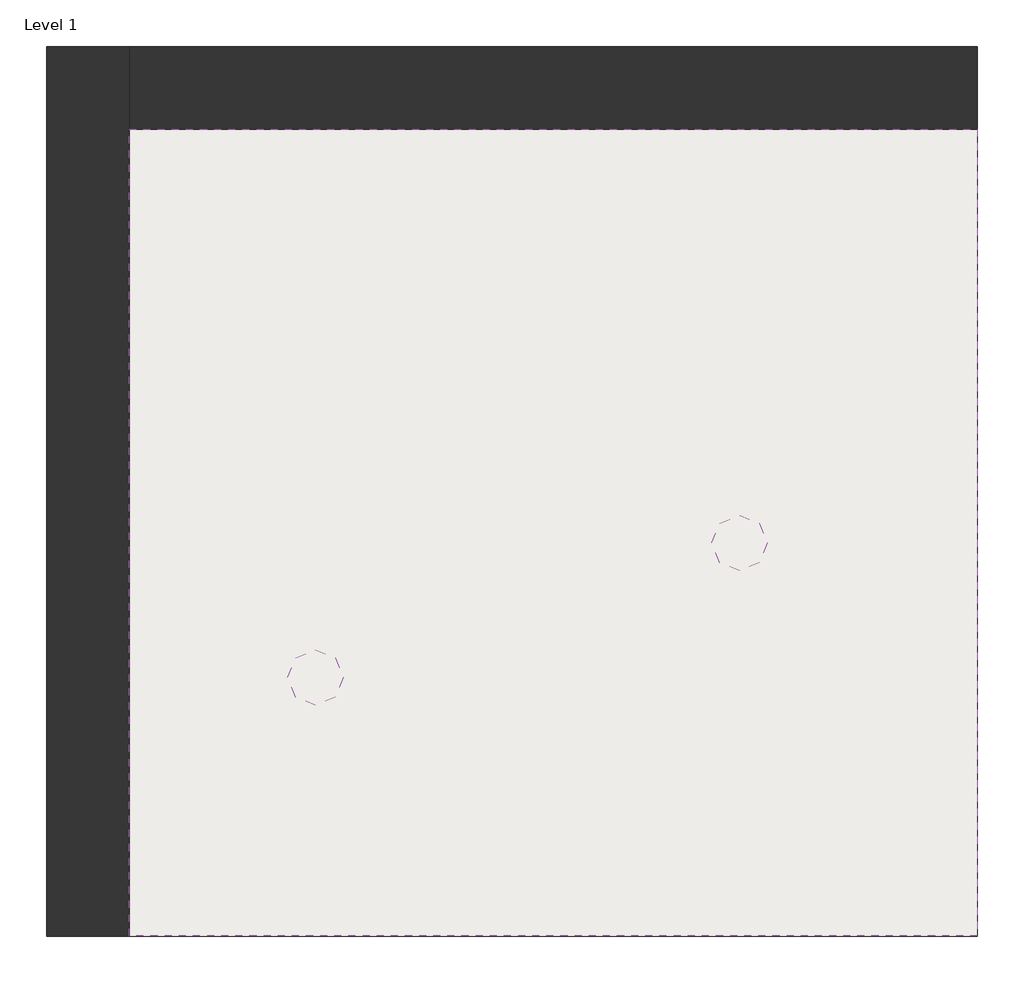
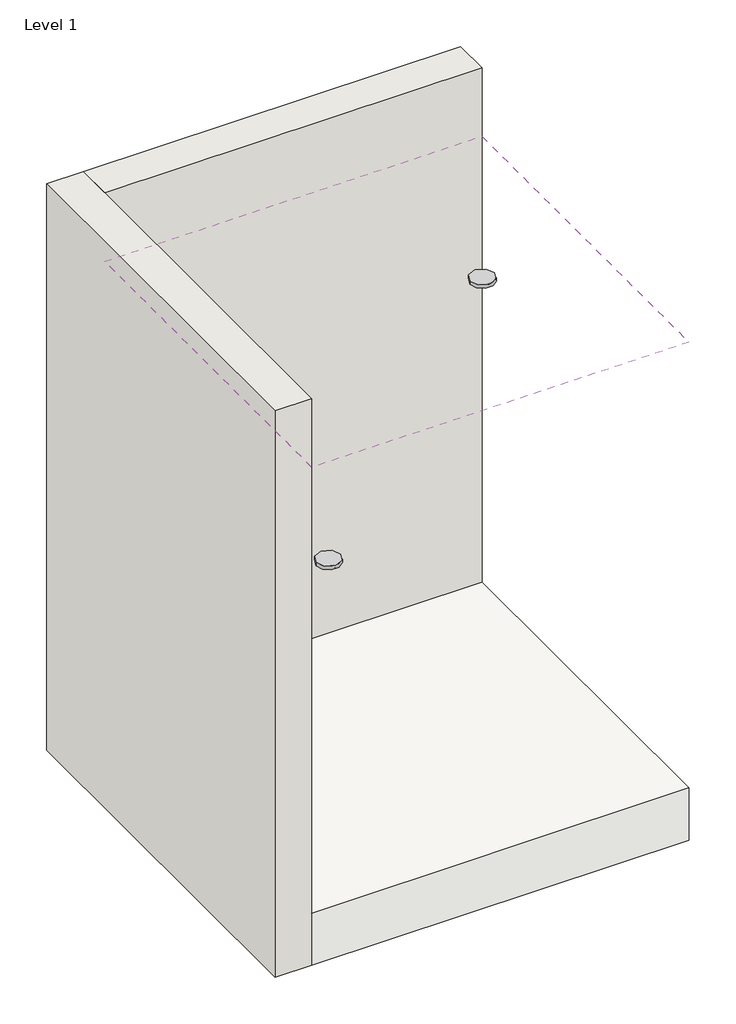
# One storey: 2 light fixtures, 2 walls, 1 covering, 1 slab.
"""IFC4 building model written with IfcOpenShell, lengths in millimetres."""

from ifc_helpers import new_model, si_unit, frame, origin, place, context, project, spatial, polyline, outline, extrude, faceted_brep, transform, mapped, element, save
from components import light_fixture_173faddb

model = new_model("IFC4")

# Units and contexts
model_context = context("Model", 3, world=origin())
ifc_project = project(units=[si_unit("LENGTHUNIT", "METRE", prefix="MILLI")], contexts=[model_context])

# Site, building, storey
site = spatial("IfcSite", under=ifc_project)
building = spatial("IfcBuilding", under=site)
storey = spatial("IfcBuildingStorey", under=building, Name="Level 1", Elevation=0.0)

# Covering
placement = place(None, origin())
element("IfcCovering", 1, ObjectType="Ceiling 2", at=placement, inside=storey, context=model_context, shape_type="SweptSolid", body=[
    extrude(outline(polyline([(4291.0676417, 3741.7404022), (4291.0676417, 1760.5404022), (2208.2676417, 1760.5404022), (2208.2676417, 3741.7404022), (4291.0676417, 3741.7404022)])), frame((0.0, 0.0, 2600.0), z_axis=(0.0, 0.0, 1.0), x_axis=(1.0, 0.0, 0.0)), (0.0, 0.0, 1.0), 25.4),
])

# Light fixtures
light_fixture_shape = light_fixture_173faddb(model_context)
element("IfcLightFixture", 2, ObjectType="LCMPD5R_SURFACE MOUNT BASIC : LCMPD5RW-T30", at=placement, inside=storey, context=model_context, shape_type="MappedRepresentation", body=[
    mapped(light_fixture_shape, transform((3706.8676417, 2759.5396904, 2600.0), x_axis=(1.0, 0.0, 0.0), y_axis=(0.0, 1.0, 0.0), z_axis=(0.0, 0.0, 1.0))),
])
element("IfcLightFixture", 3, ObjectType="LCMPD5R_SURFACE MOUNT BASIC : LCMPD5RW-T30", at=placement, inside=storey, context=model_context, shape_type="MappedRepresentation", body=[
    mapped(light_fixture_shape, transform((2665.4676417, 2429.3396904, 1524.0), x_axis=(1.0, 0.0, 0.0), y_axis=(0.0, 1.0, 0.0), z_axis=(0.0, 0.0, 1.0))),
])

# Slab
element("IfcSlab", 4, ObjectType="Floor 1", at=placement, inside=storey, context=model_context, shape_type="SweptSolid", body=[
    extrude(outline(polyline([(4291.0676417, 3741.7404022), (4291.0676417, 1760.5404022), (2208.2676417, 1760.5404022), (2208.2676417, 3741.7404022), (4291.0676417, 3741.7404022)])), frame((0.0, 0.0, -304.8), z_axis=(0.0, 0.0, 1.0), x_axis=(1.0, 0.0, 0.0)), (0.0, 0.0, 1.0), 304.8),
])

# Walls
element("IfcWall", 5, ObjectType="Wall 1", at=placement, inside=storey, context=model_context, shape_type="Brep", body=[
    faceted_brep([(2005.0676417, 3944.9404022, -304.8), (2005.0676417, 1760.5404022, -304.8), (2005.0676417, 1760.5404022, 3000.0), (2005.0676417, 3944.9404022, 3000.0), (2208.2676417, 3944.9404022, -304.8), (2208.2676417, 3944.9404022, 3000.0), (2208.2676417, 3741.7404022, 3000.0), (2208.2676417, 1760.5404022, 3000.0), (2208.2676417, 1760.5404022, -304.8), (2208.2676417, 3741.7404022, -304.8)], [[[0, 1, 2, 3]], [[4, 5, 6, 7, 8, 9]], [[1, 0, 4, 9, 8]], [[2, 1, 8, 7]], [[3, 2, 7, 6, 5]], [[0, 3, 5, 4]]]),
])
element("IfcWall", 6, ObjectType="Wall 1", at=placement, inside=storey, context=model_context, shape_type="SweptSolid", body=[
    extrude(outline(polyline([(4291.0676417, 3741.7404022), (2208.2676417, 3741.7404022), (2208.2676417, 3944.9404022), (4291.0676417, 3944.9404022), (4291.0676417, 3741.7404022)])), frame((0.0, 0.0, -304.8), z_axis=(0.0, 0.0, 1.0), x_axis=(1.0, 0.0, 0.0)), (0.0, 0.0, 1.0), 3304.8),
])

save(model, "model.ifc")
